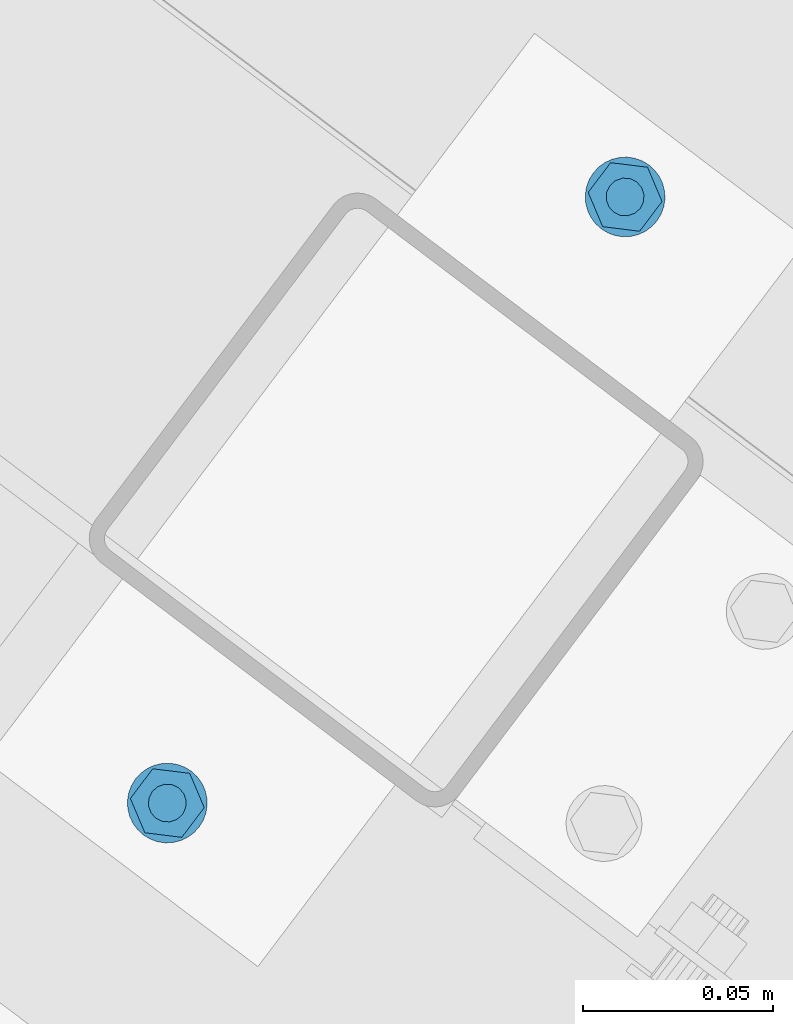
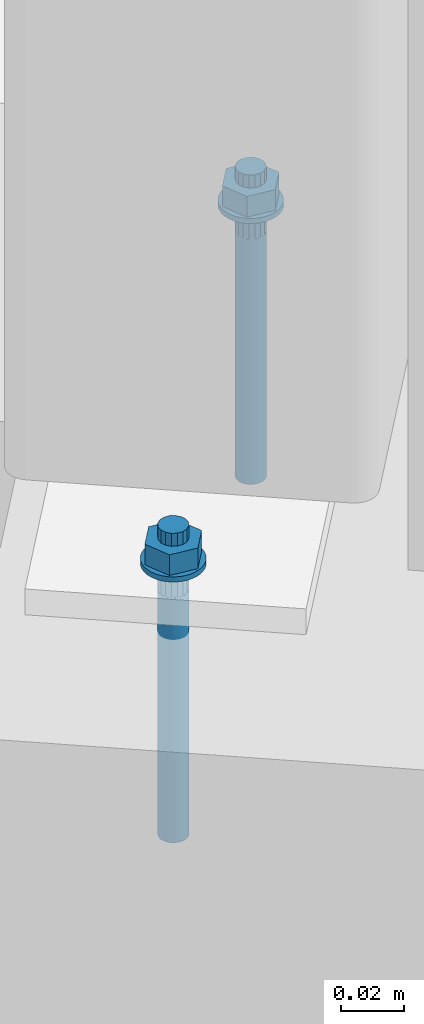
# One storey, part 167 of 476: 1 mechanical fastener.
"""IFC2X3 building model written with IfcOpenShell, lengths in millimetres."""

from ifc_helpers import new_model, entity, si_unit, converted_unit, origin_with_axes, place, context, project, spatial, faceted_brep, element, save


model = new_model("IFC2X3")

# Units and contexts
model_context = context("Model", 3, precision=1e-09, world=origin_with_axes())
ifc_project = project(units=[si_unit("LENGTHUNIT", "METRE", prefix="MILLI"), si_unit("AREAUNIT", "SQUARE_METRE"), si_unit("VOLUMEUNIT", "CUBIC_METRE"), converted_unit("PLANEANGLEUNIT", "DEGREE", entity("IfcPlaneAngleMeasure", 0.01745329), si_unit("PLANEANGLEUNIT", "RADIAN"), dimensions=[0, 0, 0, 0, 0, 0, 0])], contexts=[model_context])

# Site, building, storey
site_placement = place(None, origin_with_axes())
site = spatial("IfcSite", under=ifc_project, at=site_placement, Name="mKR Teilneubau & Sanierung BA1 - Ostfildern", CompositionType="ELEMENT")
building_placement = place(site_placement, origin_with_axes())
building = spatial("IfcBuilding", under=site, at=building_placement, Name="Struktur 1", CompositionType="ELEMENT")
storey_placement = place(building_placement, origin_with_axes())
storey = spatial("IfcBuildingStorey", under=building, at=storey_placement, Name="Default Storey", CompositionType="ELEMENT", Elevation=0.0)

# Mechanical fastener
mechanical_fastener_placement = place(None, origin_with_axes())
element("IfcMechanicalFastener", 1, at=mechanical_fastener_placement, inside=storey, ObjectType="Anchor_Bolt#1", NominalDiameter=10.0, NominalLength=120.0, context=model_context, shape_type="Brep", body=[
    faceted_brep([(1721.372070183, -1214.412408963, 527.0), (1721.372070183, -1214.412408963, 525.0), (1722.445752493, -1212.656262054, 525.0), (1722.445752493, -1212.656262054, 527.0), (1723.156197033, -1210.724393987, 525.0), (1723.156197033, -1210.724393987, 527.0), (1723.476101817, -1208.691045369, 525.0), (1723.476101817, -1208.691045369, 527.0), (1723.393173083, -1206.634356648, 525.0), (1723.393173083, -1206.634356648, 527.0), (1722.910597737, -1204.633365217, 525.0), (1722.910597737, -1204.633365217, 527.0), (1722.046920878, -1202.764968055, 525.0), (1722.046920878, -1202.764968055, 527.0), (1720.835333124, -1201.100966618, 525.0), (1720.835333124, -1201.100966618, 527.0), (1719.322395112, -1199.705307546, 525.0), (1719.322395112, -1199.705307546, 527.0), (1717.566248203, -1198.631625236, 525.0), (1717.566248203, -1198.631625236, 527.0), (1715.634380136, -1197.921180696, 525.0), (1715.634380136, -1197.921180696, 527.0), (1713.601031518, -1197.601275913, 525.0), (1713.601031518, -1197.601275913, 527.0), (1711.544342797, -1197.684204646, 525.0), (1711.544342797, -1197.684204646, 527.0), (1709.543351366, -1198.166779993, 525.0), (1709.543351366, -1198.166779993, 527.0), (1707.674954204, -1199.030456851, 525.0), (1707.674954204, -1199.030456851, 527.0), (1706.010952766, -1200.242044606, 525.0), (1706.010952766, -1200.242044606, 527.0), (1704.615293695, -1201.754982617, 525.0), (1704.615293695, -1201.754982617, 527.0), (1703.541611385, -1203.511129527, 525.0), (1703.541611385, -1203.511129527, 527.0), (1702.831166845, -1205.442997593, 525.0), (1702.831166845, -1205.442997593, 527.0), (1702.511262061, -1207.476346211, 525.0), (1702.511262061, -1207.476346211, 527.0), (1702.594190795, -1209.533034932, 525.0), (1702.594190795, -1209.533034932, 527.0), (1703.076766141, -1211.534026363, 525.0), (1703.076766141, -1211.534026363, 527.0), (1703.940443, -1213.402423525, 525.0), (1703.940443, -1213.402423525, 527.0), (1705.152030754, -1215.066424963, 525.0), (1705.152030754, -1215.066424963, 527.0), (1706.664968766, -1216.462084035, 525.0), (1706.664968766, -1216.462084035, 527.0), (1708.421115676, -1217.535766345, 525.0), (1708.421115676, -1217.535766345, 527.0), (1710.352983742, -1218.246210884, 525.0), (1710.352983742, -1218.246210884, 527.0), (1712.38633236, -1218.566115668, 525.0), (1712.38633236, -1218.566115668, 527.0), (1714.443021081, -1218.483186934, 525.0), (1714.443021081, -1218.483186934, 527.0), (1716.444012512, -1218.000611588, 525.0), (1716.444012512, -1218.000611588, 527.0), (1718.312409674, -1217.136934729, 525.0), (1718.312409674, -1217.136934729, 527.0), (1719.976411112, -1215.925346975, 525.0), (1719.976411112, -1215.925346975, 527.0)], [[[0, 1, 2, 3]], [[3, 2, 4, 5]], [[5, 4, 6, 7]], [[7, 6, 8, 9]], [[9, 8, 10, 11]], [[11, 10, 12, 13]], [[13, 12, 14, 15]], [[15, 14, 16, 17]], [[17, 16, 18, 19]], [[19, 18, 20, 21]], [[21, 20, 22, 23]], [[23, 22, 24, 25]], [[25, 24, 26, 27]], [[27, 26, 28, 29]], [[29, 28, 30, 31]], [[31, 30, 32, 33]], [[33, 32, 34, 35]], [[35, 34, 36, 37]], [[37, 36, 38, 39]], [[39, 38, 40, 41]], [[41, 40, 42, 43]], [[43, 42, 44, 45]], [[45, 44, 46, 47]], [[47, 46, 48, 49]], [[49, 48, 50, 51]], [[51, 50, 52, 53]], [[53, 52, 54, 55]], [[55, 54, 56, 57]], [[57, 56, 58, 59]], [[59, 58, 60, 61]], [[61, 60, 62, 63]], [[63, 62, 1, 0]], [[0, 3, 5, 7, 9, 11, 13, 15, 17, 19, 21, 23, 25, 27, 29, 31, 33, 35, 37, 39, 41, 43, 45, 47, 49, 51, 53, 55, 57, 59, 61, 63]], [[1, 62, 60, 58, 56, 54, 52, 50, 48, 46, 44, 42, 40, 38, 36, 34, 32, 30, 28, 26, 24, 22, 20, 18, 16, 14, 12, 10, 8, 6, 4, 2]]]),
    faceted_brep([(1841.918987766, -1054.824061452, 527.0), (1841.918987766, -1054.824061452, 525.0), (1842.992670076, -1053.067914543, 525.0), (1842.992670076, -1053.067914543, 527.0), (1843.703114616, -1051.136046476, 525.0), (1843.703114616, -1051.136046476, 527.0), (1844.023019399, -1049.102697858, 525.0), (1844.023019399, -1049.102697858, 527.0), (1843.940090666, -1047.046009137, 525.0), (1843.940090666, -1047.046009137, 527.0), (1843.457515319, -1045.045017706, 525.0), (1843.457515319, -1045.045017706, 527.0), (1842.593838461, -1043.176620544, 525.0), (1842.593838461, -1043.176620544, 527.0), (1841.382250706, -1041.512619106, 525.0), (1841.382250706, -1041.512619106, 527.0), (1839.869312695, -1040.116960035, 525.0), (1839.869312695, -1040.116960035, 527.0), (1838.113165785, -1039.043277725, 525.0), (1838.113165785, -1039.043277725, 527.0), (1836.181297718, -1038.332833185, 525.0), (1836.181297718, -1038.332833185, 527.0), (1834.147949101, -1038.012928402, 525.0), (1834.147949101, -1038.012928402, 527.0), (1832.09126038, -1038.095857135, 525.0), (1832.09126038, -1038.095857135, 527.0), (1830.090268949, -1038.578432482, 525.0), (1830.090268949, -1038.578432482, 527.0), (1828.221871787, -1039.44210934, 525.0), (1828.221871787, -1039.44210934, 527.0), (1826.557870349, -1040.653697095, 525.0), (1826.557870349, -1040.653697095, 527.0), (1825.162211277, -1042.166635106, 525.0), (1825.162211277, -1042.166635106, 527.0), (1824.088528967, -1043.922782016, 525.0), (1824.088528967, -1043.922782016, 527.0), (1823.378084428, -1045.854650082, 525.0), (1823.378084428, -1045.854650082, 527.0), (1823.058179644, -1047.8879987, 525.0), (1823.058179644, -1047.8879987, 527.0), (1823.141108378, -1049.944687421, 525.0), (1823.141108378, -1049.944687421, 527.0), (1823.623683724, -1051.945678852, 525.0), (1823.623683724, -1051.945678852, 527.0), (1824.487360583, -1053.814076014, 525.0), (1824.487360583, -1053.814076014, 527.0), (1825.698948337, -1055.478077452, 525.0), (1825.698948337, -1055.478077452, 527.0), (1827.211886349, -1056.873736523, 525.0), (1827.211886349, -1056.873736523, 527.0), (1828.968033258, -1057.947418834, 525.0), (1828.968033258, -1057.947418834, 527.0), (1830.899901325, -1058.657863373, 525.0), (1830.899901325, -1058.657863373, 527.0), (1832.933249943, -1058.977768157, 525.0), (1832.933249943, -1058.977768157, 527.0), (1834.989938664, -1058.894839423, 525.0), (1834.989938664, -1058.894839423, 527.0), (1836.990930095, -1058.412264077, 525.0), (1836.990930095, -1058.412264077, 527.0), (1838.859327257, -1057.548587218, 525.0), (1838.859327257, -1057.548587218, 527.0), (1840.523328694, -1056.336999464, 525.0), (1840.523328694, -1056.336999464, 527.0)], [[[0, 1, 2, 3]], [[3, 2, 4, 5]], [[5, 4, 6, 7]], [[7, 6, 8, 9]], [[9, 8, 10, 11]], [[11, 10, 12, 13]], [[13, 12, 14, 15]], [[15, 14, 16, 17]], [[17, 16, 18, 19]], [[19, 18, 20, 21]], [[21, 20, 22, 23]], [[23, 22, 24, 25]], [[25, 24, 26, 27]], [[27, 26, 28, 29]], [[29, 28, 30, 31]], [[31, 30, 32, 33]], [[33, 32, 34, 35]], [[35, 34, 36, 37]], [[37, 36, 38, 39]], [[39, 38, 40, 41]], [[41, 40, 42, 43]], [[43, 42, 44, 45]], [[45, 44, 46, 47]], [[47, 46, 48, 49]], [[49, 48, 50, 51]], [[51, 50, 52, 53]], [[53, 52, 54, 55]], [[55, 54, 56, 57]], [[57, 56, 58, 59]], [[59, 58, 60, 61]], [[61, 60, 62, 63]], [[63, 62, 1, 0]], [[0, 3, 5, 7, 9, 11, 13, 15, 17, 19, 21, 23, 25, 27, 29, 31, 33, 35, 37, 39, 41, 43, 45, 47, 49, 51, 53, 55, 57, 59, 61, 63]], [[1, 62, 60, 58, 56, 54, 52, 50, 48, 46, 44, 42, 40, 38, 36, 34, 32, 30, 28, 26, 24, 22, 20, 18, 16, 14, 12, 10, 8, 6, 4, 2]]]),
    faceted_brep([(1709.174910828, -1199.05834332, 527.0), (1709.174910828, -1199.05834332, 535.0), (1718.900480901, -1200.263866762, 535.0), (1718.900480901, -1200.263866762, 527.0), (1722.719252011, -1209.289219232, 535.0), (1722.719252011, -1209.289219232, 527.0), (1716.81245305, -1217.10904826, 535.0), (1716.81245305, -1217.10904826, 527.0), (1707.086882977, -1215.903524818, 535.0), (1707.086882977, -1215.903524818, 527.0), (1703.268111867, -1206.878172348, 535.0), (1703.268111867, -1206.878172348, 527.0)], [[[0, 1, 2, 3]], [[3, 2, 4, 5]], [[5, 4, 6, 7]], [[7, 6, 8, 9]], [[9, 8, 10, 11]], [[11, 10, 1, 0]], [[4, 2, 1, 10, 8, 6]], [[0, 3, 5, 7, 9, 11]]]),
    faceted_brep([(1829.721828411, -1039.469995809, 527.0), (1829.721828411, -1039.469995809, 535.0), (1839.447398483, -1040.675519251, 535.0), (1839.447398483, -1040.675519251, 527.0), (1843.266169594, -1049.700871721, 535.0), (1843.266169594, -1049.700871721, 527.0), (1837.359370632, -1057.520700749, 535.0), (1837.359370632, -1057.520700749, 527.0), (1827.63380056, -1056.315177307, 535.0), (1827.63380056, -1056.315177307, 527.0), (1823.815029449, -1047.289824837, 535.0), (1823.815029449, -1047.289824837, 527.0)], [[[0, 1, 2, 3]], [[3, 2, 4, 5]], [[5, 4, 6, 7]], [[7, 6, 8, 9]], [[9, 8, 10, 11]], [[11, 10, 1, 0]], [[4, 2, 1, 10, 8, 6]], [[0, 3, 5, 7, 9, 11]]]),
    faceted_brep([(1716.983390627, -1211.09736873, 540.0), (1716.983390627, -1211.09736873, 535.0), (1717.832974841, -1209.341171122, 535.0), (1717.832974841, -1209.341171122, 540.0), (1717.945820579, -1207.393534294, 535.0), (1717.945820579, -1207.393534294, 540.0), (1717.3047481, -1205.550968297, 535.0), (1717.3047481, -1205.550968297, 540.0), (1716.007354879, -1204.093987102, 535.0), (1716.007354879, -1204.093987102, 540.0), (1714.251157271, -1203.244402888, 535.0), (1714.251157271, -1203.244402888, 540.0), (1712.303520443, -1203.13155715, 535.0), (1712.303520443, -1203.13155715, 540.0), (1710.460954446, -1203.772629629, 535.0), (1710.460954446, -1203.772629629, 540.0), (1709.003973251, -1205.070022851, 535.0), (1709.003973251, -1205.070022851, 540.0), (1708.154389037, -1206.826220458, 535.0), (1708.154389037, -1206.826220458, 540.0), (1708.041543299, -1208.773857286, 535.0), (1708.041543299, -1208.773857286, 540.0), (1708.682615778, -1210.616423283, 535.0), (1708.682615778, -1210.616423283, 540.0), (1709.980008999, -1212.073404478, 535.0), (1709.980008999, -1212.073404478, 540.0), (1711.736206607, -1212.922988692, 535.0), (1711.736206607, -1212.922988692, 540.0), (1713.683843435, -1213.03583443, 535.0), (1713.683843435, -1213.03583443, 540.0), (1715.526409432, -1212.394761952, 535.0), (1715.526409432, -1212.394761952, 540.0)], [[[0, 1, 2, 3]], [[3, 2, 4, 5]], [[5, 4, 6, 7]], [[7, 6, 8, 9]], [[9, 8, 10, 11]], [[11, 10, 12, 13]], [[13, 12, 14, 15]], [[15, 14, 16, 17]], [[17, 16, 18, 19]], [[19, 18, 20, 21]], [[21, 20, 22, 23]], [[23, 22, 24, 25]], [[25, 24, 26, 27]], [[27, 26, 28, 29]], [[29, 28, 30, 31]], [[31, 30, 1, 0]], [[0, 3, 5, 7, 9, 11, 13, 15, 17, 19, 21, 23, 25, 27, 29, 31]], [[1, 30, 28, 26, 24, 22, 20, 18, 16, 14, 12, 10, 8, 6, 4, 2]]]),
    faceted_brep([(1837.53030821, -1051.509021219, 540.0), (1837.53030821, -1051.509021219, 535.0), (1838.379892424, -1049.752823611, 535.0), (1838.379892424, -1049.752823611, 540.0), (1838.492738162, -1047.805186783, 535.0), (1838.492738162, -1047.805186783, 540.0), (1837.851665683, -1045.962620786, 535.0), (1837.851665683, -1045.962620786, 540.0), (1836.554272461, -1044.505639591, 535.0), (1836.554272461, -1044.505639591, 540.0), (1834.798074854, -1043.656055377, 535.0), (1834.798074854, -1043.656055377, 540.0), (1832.850438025, -1043.543209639, 535.0), (1832.850438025, -1043.543209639, 540.0), (1831.007872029, -1044.184282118, 535.0), (1831.007872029, -1044.184282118, 540.0), (1829.550890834, -1045.48167534, 535.0), (1829.550890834, -1045.48167534, 540.0), (1828.70130662, -1047.237872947, 535.0), (1828.70130662, -1047.237872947, 540.0), (1828.588460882, -1049.185509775, 535.0), (1828.588460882, -1049.185509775, 540.0), (1829.22953336, -1051.028075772, 535.0), (1829.22953336, -1051.028075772, 540.0), (1830.526926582, -1052.485056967, 535.0), (1830.526926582, -1052.485056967, 540.0), (1832.28312419, -1053.334641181, 535.0), (1832.28312419, -1053.334641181, 540.0), (1834.230761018, -1053.447486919, 535.0), (1834.230761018, -1053.447486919, 540.0), (1836.073327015, -1052.80641444, 535.0), (1836.073327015, -1052.80641444, 540.0)], [[[0, 1, 2, 3]], [[3, 2, 4, 5]], [[5, 4, 6, 7]], [[7, 6, 8, 9]], [[9, 8, 10, 11]], [[11, 10, 12, 13]], [[13, 12, 14, 15]], [[15, 14, 16, 17]], [[17, 16, 18, 19]], [[19, 18, 20, 21]], [[21, 20, 22, 23]], [[23, 22, 24, 25]], [[25, 24, 26, 27]], [[27, 26, 28, 29]], [[29, 28, 30, 31]], [[31, 30, 1, 0]], [[0, 3, 5, 7, 9, 11, 13, 15, 17, 19, 21, 23, 25, 27, 29, 31]], [[1, 30, 28, 26, 24, 22, 20, 18, 16, 14, 12, 10, 8, 6, 4, 2]]]),
    faceted_brep([(1716.983390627, -1211.09736873, 525.0), (1716.983390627, -1211.09736873, 515.0), (1717.832974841, -1209.341171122, 515.0), (1717.832974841, -1209.341171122, 525.0), (1717.945820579, -1207.393534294, 515.0), (1717.945820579, -1207.393534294, 525.0), (1717.3047481, -1205.550968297, 515.0), (1717.3047481, -1205.550968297, 525.0), (1716.007354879, -1204.093987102, 515.0), (1716.007354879, -1204.093987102, 525.0), (1714.251157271, -1203.244402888, 515.0), (1714.251157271, -1203.244402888, 525.0), (1712.303520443, -1203.13155715, 515.0), (1712.303520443, -1203.13155715, 525.0), (1710.460954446, -1203.772629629, 515.0), (1710.460954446, -1203.772629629, 525.0), (1709.003973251, -1205.070022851, 515.0), (1709.003973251, -1205.070022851, 525.0), (1708.154389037, -1206.826220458, 515.0), (1708.154389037, -1206.826220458, 525.0), (1708.041543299, -1208.773857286, 515.0), (1708.041543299, -1208.773857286, 525.0), (1708.682615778, -1210.616423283, 515.0), (1708.682615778, -1210.616423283, 525.0), (1709.980008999, -1212.073404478, 515.0), (1709.980008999, -1212.073404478, 525.0), (1711.736206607, -1212.922988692, 515.0), (1711.736206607, -1212.922988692, 525.0), (1713.683843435, -1213.03583443, 515.0), (1713.683843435, -1213.03583443, 525.0), (1715.526409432, -1212.394761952, 515.0), (1715.526409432, -1212.394761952, 525.0)], [[[0, 1, 2, 3]], [[3, 2, 4, 5]], [[5, 4, 6, 7]], [[7, 6, 8, 9]], [[9, 8, 10, 11]], [[11, 10, 12, 13]], [[13, 12, 14, 15]], [[15, 14, 16, 17]], [[17, 16, 18, 19]], [[19, 18, 20, 21]], [[21, 20, 22, 23]], [[23, 22, 24, 25]], [[25, 24, 26, 27]], [[27, 26, 28, 29]], [[29, 28, 30, 31]], [[31, 30, 1, 0]], [[0, 3, 5, 7, 9, 11, 13, 15, 17, 19, 21, 23, 25, 27, 29, 31]], [[1, 30, 28, 26, 24, 22, 20, 18, 16, 14, 12, 10, 8, 6, 4, 2]]]),
    faceted_brep([(1837.53030821, -1051.509021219, 525.0), (1837.53030821, -1051.509021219, 515.0), (1838.379892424, -1049.752823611, 515.0), (1838.379892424, -1049.752823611, 525.0), (1838.492738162, -1047.805186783, 515.0), (1838.492738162, -1047.805186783, 525.0), (1837.851665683, -1045.962620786, 515.0), (1837.851665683, -1045.962620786, 525.0), (1836.554272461, -1044.505639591, 515.0), (1836.554272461, -1044.505639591, 525.0), (1834.798074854, -1043.656055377, 515.0), (1834.798074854, -1043.656055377, 525.0), (1832.850438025, -1043.543209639, 515.0), (1832.850438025, -1043.543209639, 525.0), (1831.007872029, -1044.184282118, 515.0), (1831.007872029, -1044.184282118, 525.0), (1829.550890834, -1045.48167534, 515.0), (1829.550890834, -1045.48167534, 525.0), (1828.70130662, -1047.237872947, 515.0), (1828.70130662, -1047.237872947, 525.0), (1828.588460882, -1049.185509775, 515.0), (1828.588460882, -1049.185509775, 525.0), (1829.22953336, -1051.028075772, 515.0), (1829.22953336, -1051.028075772, 525.0), (1830.526926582, -1052.485056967, 515.0), (1830.526926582, -1052.485056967, 525.0), (1832.28312419, -1053.334641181, 515.0), (1832.28312419, -1053.334641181, 525.0), (1834.230761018, -1053.447486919, 515.0), (1834.230761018, -1053.447486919, 525.0), (1836.073327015, -1052.80641444, 515.0), (1836.073327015, -1052.80641444, 525.0)], [[[0, 1, 2, 3]], [[3, 2, 4, 5]], [[5, 4, 6, 7]], [[7, 6, 8, 9]], [[9, 8, 10, 11]], [[11, 10, 12, 13]], [[13, 12, 14, 15]], [[15, 14, 16, 17]], [[17, 16, 18, 19]], [[19, 18, 20, 21]], [[21, 20, 22, 23]], [[23, 22, 24, 25]], [[25, 24, 26, 27]], [[27, 26, 28, 29]], [[29, 28, 30, 31]], [[31, 30, 1, 0]], [[0, 3, 5, 7, 9, 11, 13, 15, 17, 19, 21, 23, 25, 27, 29, 31]], [[1, 30, 28, 26, 24, 22, 20, 18, 16, 14, 12, 10, 8, 6, 4, 2]]]),
    faceted_brep([(1716.983390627, -1211.09736873, 515.0), (1716.983390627, -1211.09736873, 420.0), (1717.494667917, -1210.261108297, 420.0), (1717.494667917, -1210.261108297, 515.0), (1717.832974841, -1209.341171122, 420.0), (1717.832974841, -1209.341171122, 515.0), (1717.985310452, -1208.372909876, 420.0), (1717.985310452, -1208.372909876, 515.0), (1717.945820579, -1207.393534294, 420.0), (1717.945820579, -1207.393534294, 515.0), (1717.716022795, -1206.440681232, 420.0), (1717.716022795, -1206.440681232, 515.0), (1717.3047481, -1205.550968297, 420.0), (1717.3047481, -1205.550968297, 515.0), (1716.727801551, -1204.75858666, 420.0), (1716.727801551, -1204.75858666, 515.0), (1716.007354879, -1204.093987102, 420.0), (1716.007354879, -1204.093987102, 515.0), (1715.171094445, -1203.582709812, 420.0), (1715.171094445, -1203.582709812, 515.0), (1714.251157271, -1203.244402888, 420.0), (1714.251157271, -1203.244402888, 515.0), (1713.282896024, -1203.092067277, 420.0), (1713.282896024, -1203.092067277, 515.0), (1712.303520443, -1203.13155715, 420.0), (1712.303520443, -1203.13155715, 515.0), (1711.35066738, -1203.361354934, 420.0), (1711.35066738, -1203.361354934, 515.0), (1710.460954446, -1203.772629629, 420.0), (1710.460954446, -1203.772629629, 515.0), (1709.668572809, -1204.349576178, 420.0), (1709.668572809, -1204.349576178, 515.0), (1709.003973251, -1205.070022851, 420.0), (1709.003973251, -1205.070022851, 515.0), (1708.492695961, -1205.906283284, 420.0), (1708.492695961, -1205.906283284, 515.0), (1708.154389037, -1206.826220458, 420.0), (1708.154389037, -1206.826220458, 515.0), (1708.002053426, -1207.794481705, 420.0), (1708.002053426, -1207.794481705, 515.0), (1708.041543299, -1208.773857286, 420.0), (1708.041543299, -1208.773857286, 515.0), (1708.271341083, -1209.726710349, 420.0), (1708.271341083, -1209.726710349, 515.0), (1708.682615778, -1210.616423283, 420.0), (1708.682615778, -1210.616423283, 515.0), (1709.259562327, -1211.40880492, 420.0), (1709.259562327, -1211.40880492, 515.0), (1709.980008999, -1212.073404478, 420.0), (1709.980008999, -1212.073404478, 515.0), (1710.816269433, -1212.584681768, 420.0), (1710.816269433, -1212.584681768, 515.0), (1711.736206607, -1212.922988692, 420.0), (1711.736206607, -1212.922988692, 515.0), (1712.704467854, -1213.075324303, 420.0), (1712.704467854, -1213.075324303, 515.0), (1713.683843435, -1213.03583443, 420.0), (1713.683843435, -1213.03583443, 515.0), (1714.636696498, -1212.806036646, 420.0), (1714.636696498, -1212.806036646, 515.0), (1715.526409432, -1212.394761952, 420.0), (1715.526409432, -1212.394761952, 515.0), (1716.318791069, -1211.817815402, 420.0), (1716.318791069, -1211.817815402, 515.0)], [[[0, 1, 2, 3]], [[3, 2, 4, 5]], [[5, 4, 6, 7]], [[7, 6, 8, 9]], [[9, 8, 10, 11]], [[11, 10, 12, 13]], [[13, 12, 14, 15]], [[15, 14, 16, 17]], [[17, 16, 18, 19]], [[19, 18, 20, 21]], [[21, 20, 22, 23]], [[23, 22, 24, 25]], [[25, 24, 26, 27]], [[27, 26, 28, 29]], [[29, 28, 30, 31]], [[31, 30, 32, 33]], [[33, 32, 34, 35]], [[35, 34, 36, 37]], [[37, 36, 38, 39]], [[39, 38, 40, 41]], [[41, 40, 42, 43]], [[43, 42, 44, 45]], [[45, 44, 46, 47]], [[47, 46, 48, 49]], [[49, 48, 50, 51]], [[51, 50, 52, 53]], [[53, 52, 54, 55]], [[55, 54, 56, 57]], [[57, 56, 58, 59]], [[59, 58, 60, 61]], [[61, 60, 62, 63]], [[63, 62, 1, 0]], [[0, 3, 5, 7, 9, 11, 13, 15, 17, 19, 21, 23, 25, 27, 29, 31, 33, 35, 37, 39, 41, 43, 45, 47, 49, 51, 53, 55, 57, 59, 61, 63]], [[1, 62, 60, 58, 56, 54, 52, 50, 48, 46, 44, 42, 40, 38, 36, 34, 32, 30, 28, 26, 24, 22, 20, 18, 16, 14, 12, 10, 8, 6, 4, 2]]]),
    faceted_brep([(1837.53030821, -1051.509021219, 515.0), (1837.53030821, -1051.509021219, 420.0), (1838.0415855, -1050.672760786, 420.0), (1838.0415855, -1050.672760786, 515.0), (1838.379892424, -1049.752823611, 420.0), (1838.379892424, -1049.752823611, 515.0), (1838.532228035, -1048.784562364, 420.0), (1838.532228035, -1048.784562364, 515.0), (1838.492738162, -1047.805186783, 420.0), (1838.492738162, -1047.805186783, 515.0), (1838.262940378, -1046.852333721, 420.0), (1838.262940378, -1046.852333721, 515.0), (1837.851665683, -1045.962620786, 420.0), (1837.851665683, -1045.962620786, 515.0), (1837.274719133, -1045.170239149, 420.0), (1837.274719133, -1045.170239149, 515.0), (1836.554272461, -1044.505639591, 420.0), (1836.554272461, -1044.505639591, 515.0), (1835.718012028, -1043.994362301, 420.0), (1835.718012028, -1043.994362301, 515.0), (1834.798074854, -1043.656055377, 420.0), (1834.798074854, -1043.656055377, 515.0), (1833.829813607, -1043.503719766, 420.0), (1833.829813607, -1043.503719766, 515.0), (1832.850438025, -1043.543209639, 420.0), (1832.850438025, -1043.543209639, 515.0), (1831.897584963, -1043.773007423, 420.0), (1831.897584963, -1043.773007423, 515.0), (1831.007872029, -1044.184282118, 420.0), (1831.007872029, -1044.184282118, 515.0), (1830.215490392, -1044.761228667, 420.0), (1830.215490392, -1044.761228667, 515.0), (1829.550890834, -1045.48167534, 420.0), (1829.550890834, -1045.48167534, 515.0), (1829.039613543, -1046.317935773, 420.0), (1829.039613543, -1046.317935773, 515.0), (1828.70130662, -1047.237872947, 420.0), (1828.70130662, -1047.237872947, 515.0), (1828.548971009, -1048.206134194, 420.0), (1828.548971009, -1048.206134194, 515.0), (1828.588460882, -1049.185509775, 420.0), (1828.588460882, -1049.185509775, 515.0), (1828.818258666, -1050.138362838, 420.0), (1828.818258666, -1050.138362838, 515.0), (1829.22953336, -1051.028075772, 420.0), (1829.22953336, -1051.028075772, 515.0), (1829.80647991, -1051.820457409, 420.0), (1829.80647991, -1051.820457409, 515.0), (1830.526926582, -1052.485056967, 420.0), (1830.526926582, -1052.485056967, 515.0), (1831.363187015, -1052.996334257, 420.0), (1831.363187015, -1052.996334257, 515.0), (1832.28312419, -1053.334641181, 420.0), (1832.28312419, -1053.334641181, 515.0), (1833.251385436, -1053.486976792, 420.0), (1833.251385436, -1053.486976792, 515.0), (1834.230761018, -1053.447486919, 420.0), (1834.230761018, -1053.447486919, 515.0), (1835.18361408, -1053.217689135, 420.0), (1835.18361408, -1053.217689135, 515.0), (1836.073327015, -1052.80641444, 420.0), (1836.073327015, -1052.80641444, 515.0), (1836.865708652, -1052.229467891, 420.0), (1836.865708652, -1052.229467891, 515.0)], [[[0, 1, 2, 3]], [[3, 2, 4, 5]], [[5, 4, 6, 7]], [[7, 6, 8, 9]], [[9, 8, 10, 11]], [[11, 10, 12, 13]], [[13, 12, 14, 15]], [[15, 14, 16, 17]], [[17, 16, 18, 19]], [[19, 18, 20, 21]], [[21, 20, 22, 23]], [[23, 22, 24, 25]], [[25, 24, 26, 27]], [[27, 26, 28, 29]], [[29, 28, 30, 31]], [[31, 30, 32, 33]], [[33, 32, 34, 35]], [[35, 34, 36, 37]], [[37, 36, 38, 39]], [[39, 38, 40, 41]], [[41, 40, 42, 43]], [[43, 42, 44, 45]], [[45, 44, 46, 47]], [[47, 46, 48, 49]], [[49, 48, 50, 51]], [[51, 50, 52, 53]], [[53, 52, 54, 55]], [[55, 54, 56, 57]], [[57, 56, 58, 59]], [[59, 58, 60, 61]], [[61, 60, 62, 63]], [[63, 62, 1, 0]], [[0, 3, 5, 7, 9, 11, 13, 15, 17, 19, 21, 23, 25, 27, 29, 31, 33, 35, 37, 39, 41, 43, 45, 47, 49, 51, 53, 55, 57, 59, 61, 63]], [[1, 62, 60, 58, 56, 54, 52, 50, 48, 46, 44, 42, 40, 38, 36, 34, 32, 30, 28, 26, 24, 22, 20, 18, 16, 14, 12, 10, 8, 6, 4, 2]]]),
])

save(model, "model.ifc")
